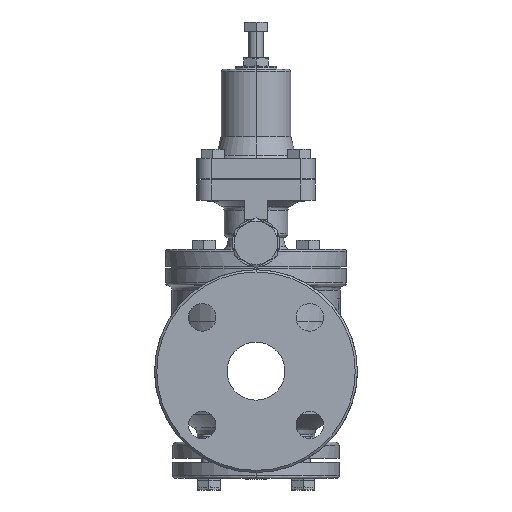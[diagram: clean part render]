
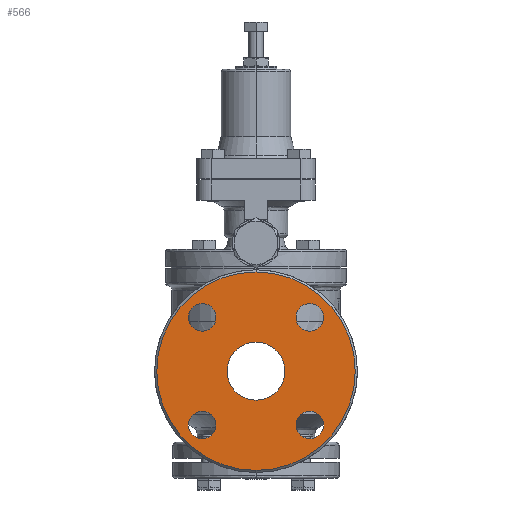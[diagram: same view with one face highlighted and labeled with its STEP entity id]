
A CAD part, left-side view. The second image highlights one B-rep face of the part: STEP entity #566.
In plain terms, the highlighted planar face has unit normal (-1, 0, 0).
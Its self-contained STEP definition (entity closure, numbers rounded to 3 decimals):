
#566=ADVANCED_FACE('',(#2858,#2859,#2860,#2861,#2862,#2863),#2857,.T.);
#2857=PLANE('',#6544);
#2858=FACE_OUTER_BOUND('',#6545,.T.);
#2859=FACE_BOUND('',#6546,.T.);
#2860=FACE_BOUND('',#6547,.T.);
#2861=FACE_BOUND('',#6548,.T.);
#2862=FACE_BOUND('',#6549,.T.);
#2863=FACE_BOUND('',#6550,.T.);
#6541=CARTESIAN_POINT('',(-227.605,-128.645,-331.499));
#6542=DIRECTION('',(-1.,0.,0.));
#6543=DIRECTION('',(0.,0.,1.));
#6544=AXIS2_PLACEMENT_3D('',#6541,#6542,#6543);
#6545=EDGE_LOOP('',(#9247,#9248));
#6546=EDGE_LOOP('',(#9249,#9250));
#6547=EDGE_LOOP('',(#9251,#9252));
#6548=EDGE_LOOP('',(#9253,#9254));
#6549=EDGE_LOOP('',(#9255,#9256));
#6550=EDGE_LOOP('',(#9257,#9258));
#9247=ORIENTED_EDGE('',*,*,#10832,.T.);
#9248=ORIENTED_EDGE('',*,*,#10833,.T.);
#9249=ORIENTED_EDGE('',*,*,#10834,.T.);
#9250=ORIENTED_EDGE('',*,*,#10835,.T.);
#9251=ORIENTED_EDGE('',*,*,#10836,.T.);
#9252=ORIENTED_EDGE('',*,*,#10837,.T.);
#9253=ORIENTED_EDGE('',*,*,#10838,.T.);
#9254=ORIENTED_EDGE('',*,*,#10839,.T.);
#9255=ORIENTED_EDGE('',*,*,#10840,.T.);
#9256=ORIENTED_EDGE('',*,*,#10841,.T.);
#9257=ORIENTED_EDGE('',*,*,#10842,.T.);
#9258=ORIENTED_EDGE('',*,*,#10843,.T.);
#10832=EDGE_CURVE('',#15755,#15756,#15757,.T.);
#10833=EDGE_CURVE('',#15756,#15755,#15763,.T.);
#10834=EDGE_CURVE('',#15769,#15770,#15771,.T.);
#10835=EDGE_CURVE('',#15770,#15769,#15777,.T.);
#10836=EDGE_CURVE('',#15783,#15784,#15785,.T.);
#10837=EDGE_CURVE('',#15784,#15783,#15791,.T.);
#10838=EDGE_CURVE('',#15797,#15798,#15799,.T.);
#10839=EDGE_CURVE('',#15798,#15797,#15805,.T.);
#10840=EDGE_CURVE('',#15811,#15812,#15813,.T.);
#10841=EDGE_CURVE('',#15812,#15811,#15819,.T.);
#10842=EDGE_CURVE('',#15825,#15826,#15827,.T.);
#10843=EDGE_CURVE('',#15826,#15825,#15833,.T.);
#15755=VERTEX_POINT('',#22154);
#15756=VERTEX_POINT('',#22155);
#15757=CIRCLE('',#22159,68.5);
#15763=CIRCLE('',#22163,68.5);
#15769=VERTEX_POINT('',#22164);
#15770=VERTEX_POINT('',#22165);
#15771=CIRCLE('',#22169,9.5);
#15777=CIRCLE('',#22173,9.5);
#15783=VERTEX_POINT('',#22174);
#15784=VERTEX_POINT('',#22175);
#15785=CIRCLE('',#22179,9.5);
#15791=CIRCLE('',#22183,9.5);
#15797=VERTEX_POINT('',#22184);
#15798=VERTEX_POINT('',#22185);
#15799=CIRCLE('',#22189,9.5);
#15805=CIRCLE('',#22193,9.5);
#15811=VERTEX_POINT('',#22194);
#15812=VERTEX_POINT('',#22195);
#15813=CIRCLE('',#22199,20.);
#15819=CIRCLE('',#22203,20.);
#15825=VERTEX_POINT('',#22204);
#15826=VERTEX_POINT('',#22205);
#15827=CIRCLE('',#22209,9.5);
#15833=CIRCLE('',#22213,9.5);
#22154=CARTESIAN_POINT('',(-227.605,0.,-115.999));
#22155=CARTESIAN_POINT('',(-227.605,0.,-252.999));
#22156=CARTESIAN_POINT('',(-227.605,0.,-184.499));
#22157=DIRECTION('',(-1.,0.,0.));
#22158=DIRECTION('',(0.,0.,1.));
#22159=AXIS2_PLACEMENT_3D('',#22156,#22157,#22158);
#22160=CARTESIAN_POINT('',(-227.605,0.,-184.499));
#22161=DIRECTION('',(-1.,0.,0.));
#22162=DIRECTION('',(0.,0.,1.));
#22163=AXIS2_PLACEMENT_3D('',#22160,#22161,#22162);
#22164=CARTESIAN_POINT('',(-227.605,-37.123,-137.876));
#22165=CARTESIAN_POINT('',(-227.605,-37.123,-156.876));
#22166=CARTESIAN_POINT('',(-227.605,-37.123,-147.376));
#22167=DIRECTION('',(1.,0.,0.));
#22168=DIRECTION('',(0.,0.,1.));
#22169=AXIS2_PLACEMENT_3D('',#22166,#22167,#22168);
#22170=CARTESIAN_POINT('',(-227.605,-37.123,-147.376));
#22171=DIRECTION('',(1.,0.,0.));
#22172=DIRECTION('',(0.,0.,1.));
#22173=AXIS2_PLACEMENT_3D('',#22170,#22171,#22172);
#22174=CARTESIAN_POINT('',(-227.605,37.123,-137.876));
#22175=CARTESIAN_POINT('',(-227.605,37.123,-156.876));
#22176=CARTESIAN_POINT('',(-227.605,37.123,-147.376));
#22177=DIRECTION('',(1.,0.,0.));
#22178=DIRECTION('',(0.,0.,1.));
#22179=AXIS2_PLACEMENT_3D('',#22176,#22177,#22178);
#22180=CARTESIAN_POINT('',(-227.605,37.123,-147.376));
#22181=DIRECTION('',(1.,0.,0.));
#22182=DIRECTION('',(0.,0.,1.));
#22183=AXIS2_PLACEMENT_3D('',#22180,#22181,#22182);
#22184=CARTESIAN_POINT('',(-227.605,37.123,-212.122));
#22185=CARTESIAN_POINT('',(-227.605,37.123,-231.122));
#22186=CARTESIAN_POINT('',(-227.605,37.123,-221.622));
#22187=DIRECTION('',(1.,0.,0.));
#22188=DIRECTION('',(0.,0.,1.));
#22189=AXIS2_PLACEMENT_3D('',#22186,#22187,#22188);
#22190=CARTESIAN_POINT('',(-227.605,37.123,-221.622));
#22191=DIRECTION('',(1.,0.,0.));
#22192=DIRECTION('',(0.,0.,1.));
#22193=AXIS2_PLACEMENT_3D('',#22190,#22191,#22192);
#22194=CARTESIAN_POINT('',(-227.605,0.,-164.499));
#22195=CARTESIAN_POINT('',(-227.605,0.,-204.499));
#22196=CARTESIAN_POINT('',(-227.605,0.,-184.499));
#22197=DIRECTION('',(1.,0.,0.));
#22198=DIRECTION('',(0.,0.,1.));
#22199=AXIS2_PLACEMENT_3D('',#22196,#22197,#22198);
#22200=CARTESIAN_POINT('',(-227.605,0.,-184.499));
#22201=DIRECTION('',(1.,0.,0.));
#22202=DIRECTION('',(0.,0.,1.));
#22203=AXIS2_PLACEMENT_3D('',#22200,#22201,#22202);
#22204=CARTESIAN_POINT('',(-227.605,-37.123,-212.122));
#22205=CARTESIAN_POINT('',(-227.605,-37.123,-231.122));
#22206=CARTESIAN_POINT('',(-227.605,-37.123,-221.622));
#22207=DIRECTION('',(1.,0.,0.));
#22208=DIRECTION('',(0.,0.,1.));
#22209=AXIS2_PLACEMENT_3D('',#22206,#22207,#22208);
#22210=CARTESIAN_POINT('',(-227.605,-37.123,-221.622));
#22211=DIRECTION('',(1.,0.,0.));
#22212=DIRECTION('',(0.,0.,1.));
#22213=AXIS2_PLACEMENT_3D('',#22210,#22211,#22212);
